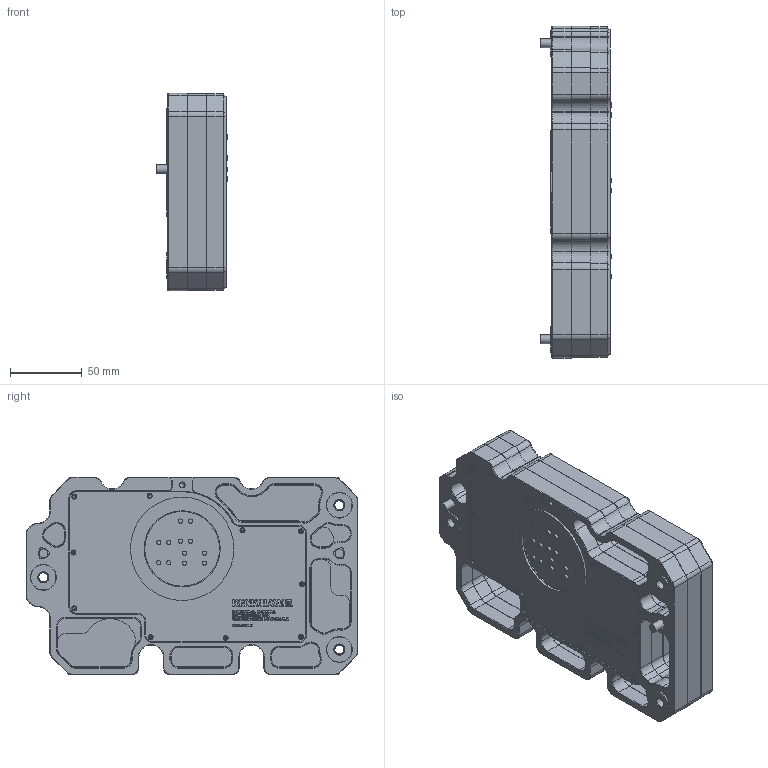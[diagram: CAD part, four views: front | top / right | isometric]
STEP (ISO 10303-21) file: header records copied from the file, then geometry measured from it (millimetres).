
FILE_DESCRIPTION(/* description */ (''),/* implementation_level */ '2;1');
FILE_NAME(/* name */ 'LA-5225-0935-02-A_RMAP-3A MULTI-AXIS PERISCOPE KIT_1.stp',/* time_stamp */ '2021-06-25T14:49:44+01:00',/* author */ (''),/* organization */ (''),/* preprocessor_version */ 'ST-DEVELOPER v16.7',/* originating_system */ 'SIEMENS PLM Software NX 1946',/* authorisation */ '');
FILE_SCHEMA (('AUTOMOTIVE_DESIGN { 1 0 10303 214 3 1 1 1 }'));
Products named in the file (1): LA-5225-0935-02-A_RMAP-3A MULTI-AXIS PERISCOPE KIT
Bounding box: 49.5 x 231 x 137.6 mm (x, y, z)
Surface area: 124283.7 mm2 (no closed solid volume)
Topology: 0 solids, 1 shells, 1432 faces, 4587 edges, 3518 vertices
Faces by surface type: plane 792, cylinder 441, cone 183, torus 10, sphere 6
Full cylindrical faces by diameter (mm): 0.72 x6, 3 x34, 3.4 x10, 3.5 x10, 5.7 x6, 6 x2, 6.2 x3, 6.8 x3, 7 x6, 14 x3, 18 x3, 52 x1, 53 x1, 72 x1
Entity records: 60100 total; most frequent: CARTESIAN_POINT 18056, ORIENTED_EDGE 8728, DIRECTION 6554, EDGE_CURVE 4376, VERTEX_POINT 3458, AXIS2_PLACEMENT_3D 2438, EDGE_LOOP 1950, B_SPLINE_CURVE_WITH_KNOTS 1693
